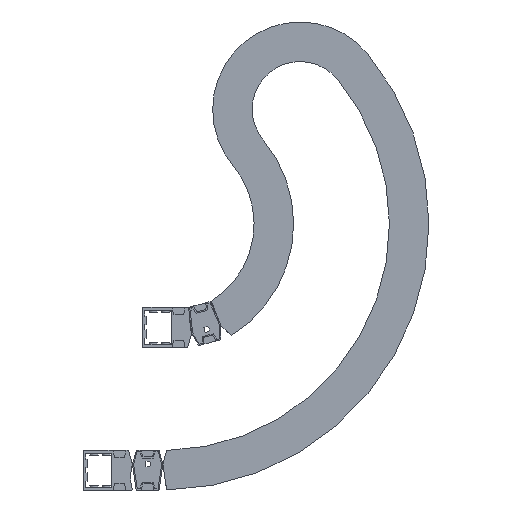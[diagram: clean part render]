
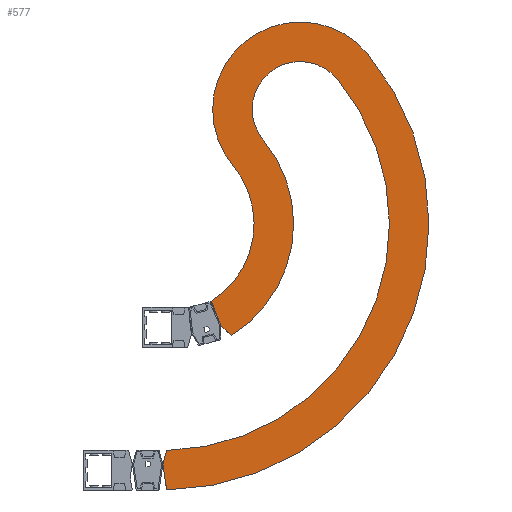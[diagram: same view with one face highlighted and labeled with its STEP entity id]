
A CAD part, front view. The second image highlights one B-rep face of the part: STEP entity #577.
In plain terms, the highlighted planar face has unit normal (0, -1, 0).
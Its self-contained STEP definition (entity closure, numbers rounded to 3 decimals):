
#577 = ADVANCED_FACE( '', ( #1403 ), #1404, .F. );
#1403 = FACE_OUTER_BOUND( '', #2531, .T. );
#1404 = PLANE( '', #2532 );
#2531 = EDGE_LOOP( '', ( #4090, #4091, #4092, #4093, #4094, #4095, #4096, #4097, #4098, #4099 ) );
#2532 = AXIS2_PLACEMENT_3D( '', #4100, #4101, #4102 );
#4090 = ORIENTED_EDGE( '', *, *, #7005, .F. );
#4091 = ORIENTED_EDGE( '', *, *, #7343, .F. );
#4092 = ORIENTED_EDGE( '', *, *, #7344, .F. );
#4093 = ORIENTED_EDGE( '', *, *, #7317, .T. );
#4094 = ORIENTED_EDGE( '', *, *, #6954, .F. );
#4095 = ORIENTED_EDGE( '', *, *, #7345, .F. );
#4096 = ORIENTED_EDGE( '', *, *, #7346, .F. );
#4097 = ORIENTED_EDGE( '', *, *, #7347, .T. );
#4098 = ORIENTED_EDGE( '', *, *, #7348, .T. );
#4099 = ORIENTED_EDGE( '', *, *, #7349, .F. );
#4100 = CARTESIAN_POINT( '', ( 0., -39., 0. ) );
#4101 = DIRECTION( '', ( 0., 1., 0. ) );
#4102 = DIRECTION( '', ( 0., 0., 1. ) );
#6954 = EDGE_CURVE( '', #8353, #8355, #8356, .T. );
#7005 = EDGE_CURVE( '', #8447, #8449, #8450, .T. );
#7317 = EDGE_CURVE( '', #9005, #8355, #9006, .T. );
#7343 = EDGE_CURVE( '', #9048, #8447, #9049, .T. );
#7344 = EDGE_CURVE( '', #9005, #9048, #9050, .T. );
#7345 = EDGE_CURVE( '', #9051, #8353, #9052, .T. );
#7346 = EDGE_CURVE( '', #9053, #9051, #9054, .T. );
#7347 = EDGE_CURVE( '', #9053, #9055, #9056, .T. );
#7348 = EDGE_CURVE( '', #9055, #9057, #9058, .T. );
#7349 = EDGE_CURVE( '', #8449, #9057, #9059, .T. );
#8353 = VERTEX_POINT( '', #10426 );
#8355 = VERTEX_POINT( '', #10429 );
#8356 = LINE( '', #10430, #10431 );
#8447 = VERTEX_POINT( '', #10558 );
#8449 = VERTEX_POINT( '', #10561 );
#8450 = LINE( '', #10562, #10563 );
#9005 = VERTEX_POINT( '', #11342 );
#9006 = CIRCLE( '', #11343, 120. );
#9048 = VERTEX_POINT( '', #11402 );
#9049 = CIRCLE( '', #11403, 350. );
#9050 = CIRCLE( '', #11404, 115. );
#9051 = VERTEX_POINT( '', #11405 );
#9052 = LINE( '', #11406, #11407 );
#9053 = VERTEX_POINT( '', #11408 );
#9054 = CIRCLE( '', #11409, 172. );
#9055 = VERTEX_POINT( '', #11410 );
#9056 = CIRCLE( '', #11411, 63. );
#9057 = VERTEX_POINT( '', #11412 );
#9058 = CIRCLE( '', #11413, 298. );
#9059 = LINE( '', #11414, #11415 );
#10426 = CARTESIAN_POINT( '', ( 76.45, -39., -133.684 ) );
#10429 = CARTESIAN_POINT( '', ( 63.857, -39., -101.599 ) );
#10430 = CARTESIAN_POINT( '', ( 76.45, -39., -133.684 ) );
#10431 = VECTOR( '', #13256, 1000. );
#10558 = CARTESIAN_POINT( '', ( 4.975, -39., -349.965 ) );
#10561 = CARTESIAN_POINT( '', ( 0., -39., -316. ) );
#10562 = CARTESIAN_POINT( '', ( 4.975, -39., -349.965 ) );
#10563 = VECTOR( '', #13309, 1000. );
#11342 = CARTESIAN_POINT( '', ( 92.181, -39., 76.828 ) );
#11343 = AXIS2_PLACEMENT_3D( '', #13672, #13673, #13674 );
#11402 = CARTESIAN_POINT( '', ( 268.862, -39., 224.083 ) );
#11403 = AXIS2_PLACEMENT_3D( '', #13701, #13702, #13703 );
#11404 = AXIS2_PLACEMENT_3D( '', #13704, #13705, #13706 );
#11405 = CARTESIAN_POINT( '', ( 89.657, -39., -146.784 ) );
#11406 = CARTESIAN_POINT( '', ( 89.657, -39., -146.784 ) );
#11407 = VECTOR( '', #13707, 1000. );
#11408 = CARTESIAN_POINT( '', ( 132.127, -39., 110.121 ) );
#11409 = AXIS2_PLACEMENT_3D( '', #13708, #13709, #13710 );
#11410 = CARTESIAN_POINT( '', ( 228.917, -39., 190.79 ) );
#11411 = AXIS2_PLACEMENT_3D( '', #13711, #13712, #13713 );
#11412 = CARTESIAN_POINT( '', ( 4.992, -39., -297.958 ) );
#11413 = AXIS2_PLACEMENT_3D( '', #13714, #13715, #13716 );
#11414 = CARTESIAN_POINT( '', ( 0., -39., -316. ) );
#11415 = VECTOR( '', #13717, 1000. );
#13256 = DIRECTION( '', ( -0.365, 0., 0.931 ) );
#13309 = DIRECTION( '', ( -0.145, 0., 0.989 ) );
#13672 = CARTESIAN_POINT( '', ( 0., -39., 0. ) );
#13673 = DIRECTION( '', ( 0., 1., 0. ) );
#13674 = DIRECTION( '', ( 1., 0., 0. ) );
#13701 = CARTESIAN_POINT( '', ( 0., -39., 0. ) );
#13702 = DIRECTION( '', ( 0., 1., 0. ) );
#13703 = DIRECTION( '', ( 1., 0., 0. ) );
#13704 = CARTESIAN_POINT( '', ( 180.522, -39., 150.456 ) );
#13705 = DIRECTION( '', ( 0., 1., 0. ) );
#13706 = DIRECTION( '', ( 1., 0., 0. ) );
#13707 = DIRECTION( '', ( -0.71, 0., 0.704 ) );
#13708 = CARTESIAN_POINT( '', ( 0., -39., 0. ) );
#13709 = DIRECTION( '', ( 0., 1., 0. ) );
#13710 = DIRECTION( '', ( 1., 0., 0. ) );
#13711 = CARTESIAN_POINT( '', ( 180.522, -39., 150.456 ) );
#13712 = DIRECTION( '', ( 0., 1., 0. ) );
#13713 = DIRECTION( '', ( 1., 0., 0. ) );
#13714 = CARTESIAN_POINT( '', ( 0., -39., 0. ) );
#13715 = DIRECTION( '', ( 0., 1., 0. ) );
#13716 = DIRECTION( '', ( 1., 0., 0. ) );
#13717 = DIRECTION( '', ( 0.267, 0., 0.964 ) );
